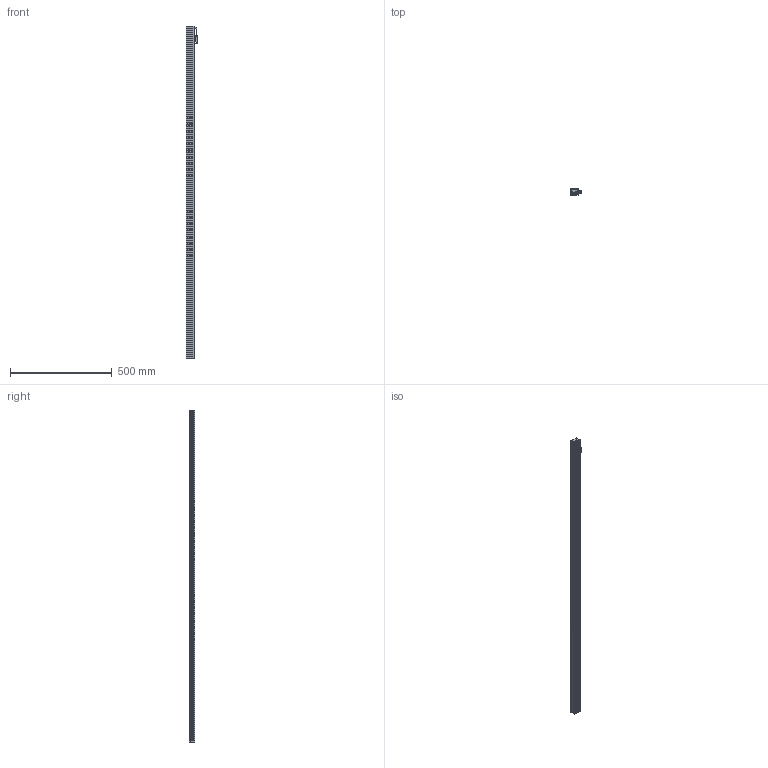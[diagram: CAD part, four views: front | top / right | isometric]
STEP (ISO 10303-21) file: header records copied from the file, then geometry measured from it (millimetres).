
FILE_DESCRIPTION (( 'STEP AP203' ), '1' );
FILE_NAME ('CK-BL163238.STEP', '2026-01-30T01:57:16', ( '' ), ( '' ), 'SwSTEP 2.0', 'SolidWorks 2022', '' );
FILE_SCHEMA (( 'CONFIG_CONTROL_DESIGN' ));
Length unit declared in the file: millimetre
Products named in the file (6): CK-BL163238-002A; 光源线; CK-BL163238; CK-BL163238-003A; 十字沉头螺丝 M2x10; CK163238-001A
Assembly tree (11 placements, depth 2):
  CK-BL163238
    CK163238-001A
    CK-BL163238-002A  x2
    CK-BL163238-003A
    光源线
    十字沉头螺丝 M2x10  x6
Bounding box: 55.84 x 27 x 1632 mm (x, y, z)
Volume: 652271.5 mm3; surface area: 561780.4 mm2
Topology: 13 solids, 13 shells, 641 faces, 1692 edges, 1082 vertices
Faces by surface type: plane 353, cylinder 210, cone 46, bspline 32
Entity records: 16373 total; most frequent: CARTESIAN_POINT 3399, ORIENTED_EDGE 2598, DIRECTION 2515, EDGE_CURVE 1299, VECTOR 875, LINE 875, VERTEX_POINT 846, AXIS2_PLACEMENT_3D 820
